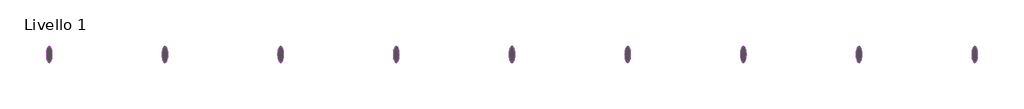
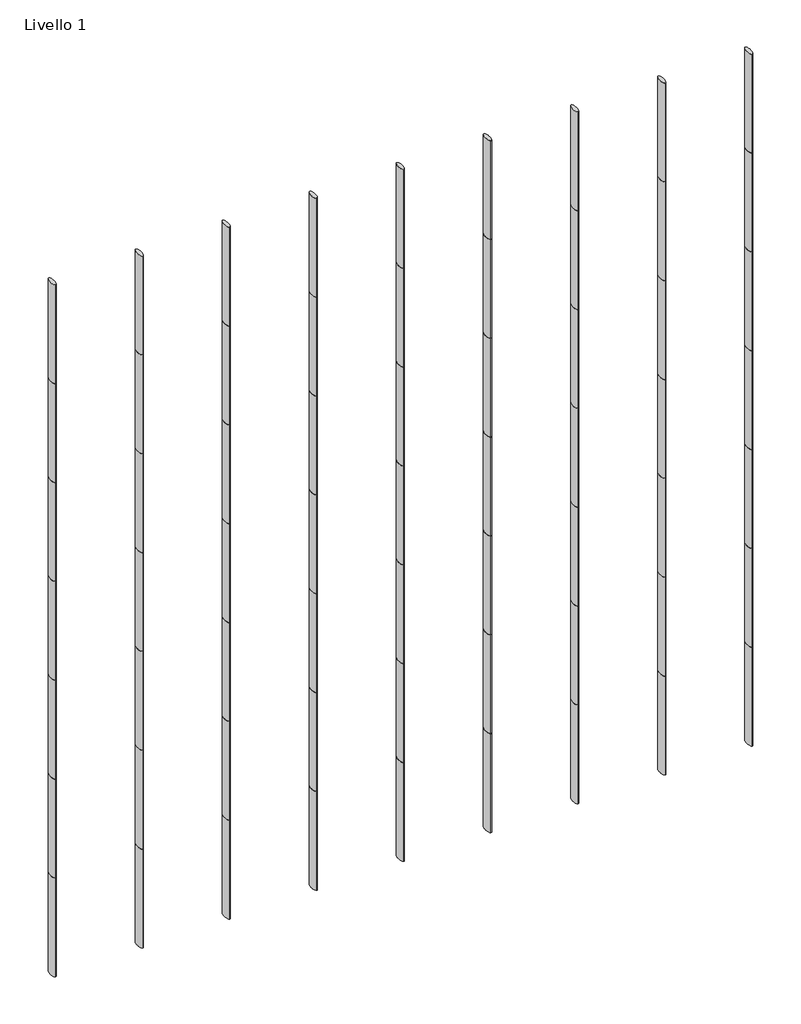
# One storey, incomplete: 63 members.
"""IFC4 building model written with IfcOpenShell, lengths in millimetres."""

import ifcopenshell
import ifcopenshell.guid

model = None  # the IFC model being written
_history = None  # IfcOwnerHistory: only IFC2X3 demands one
_inside = {}  # id of a spatial element -> (the spatial element, [elements in it])
_under = {}  # id of a project, library or spatial element -> (it, [spatial elements below it])
_declared = {}  # id of a project -> (the project, [libraries it declares])
_typed = {}  # id of a type object -> (the type object, [elements of that type])
_made_of = {}  # id of a material, layer set ... -> (it, [elements and type objects made of it])


def new_model(schema):
    """Start an empty IFC model of exactly this schema.

    Asked for "IFC4X3", IfcOpenShell would pick the latest addendum, in which some entities
    have other attributes; the version numbers below select the first issue.
    IFC2X3 requires an IfcOwnerHistory on every rooted entity: one is made here for all.
    """
    global model, _history
    if schema == "IFC4X3":
        model = ifcopenshell.file(schema_version=(4, 3, 0, 0))
    else:
        model = ifcopenshell.file(schema=schema)
    _inside.clear()
    _under.clear()
    _declared.clear()
    _typed.clear()
    _made_of.clear()
    _history = None
    if model.schema == "IFC2X3":
        org = make("IfcOrganization", Name="unknown")
        user = make(
            "IfcPersonAndOrganization",
            ThePerson=make("IfcPerson", FamilyName="unknown"),
            TheOrganization=org,
        )
        app = make(
            "IfcApplication",
            ApplicationDeveloper=org,
            Version="unknown",
            ApplicationFullName="unknown",
            ApplicationIdentifier="unknown",
        )
        _history = make(
            "IfcOwnerHistory",
            OwningUser=user,
            OwningApplication=app,
            ChangeAction="ADDED",
            CreationDate=0,
        )
    return model


def make(cls, **values):
    """One entity of the class cls with the attributes given. An attribute that is None is left unset."""
    return model.create_entity(
        cls, **{name: value for name, value in values.items() if value is not None}
    )


def rooted(cls, **values):
    """An entity with a GlobalId (a new one), such as an element, a storey or a relation."""
    return make(cls, GlobalId=ifcopenshell.guid.new(), OwnerHistory=_history, **values)


def si_unit(unit_type, name, prefix=None):
    """IfcSIUnit, for example si_unit("LENGTHUNIT", "METRE", prefix="MILLI")."""
    return make("IfcSIUnit", UnitType=unit_type, Prefix=prefix, Name=name)


def assignment(units):
    """IfcUnitAssignment: the units of a project."""
    return None if units is None else make("IfcUnitAssignment", Units=units)


def point(xyz):
    """IfcCartesianPoint."""
    return None if xyz is None else make("IfcCartesianPoint", Coordinates=xyz)


def direction(xyz):
    """IfcDirection."""
    return None if xyz is None else make("IfcDirection", DirectionRatios=xyz)


def frame(location, z_axis=None, x_axis=None):
    """IfcAxis2Placement3D, a coordinate frame: its origin and axes. An axis left out is left unset."""
    return make(
        "IfcAxis2Placement3D",
        Location=point(location),
        Axis=direction(z_axis),
        RefDirection=direction(x_axis),
    )


def origin():
    """The frame at (0, 0, 0) with its axes left unset."""
    return frame((0.0, 0.0, 0.0))


def place(relative_to, where):
    """IfcLocalPlacement: puts the frame where relative to a parent placement (None: the world)."""
    return make(
        "IfcLocalPlacement", PlacementRelTo=relative_to, RelativePlacement=where
    )


def context(
    kind, dimensions, precision=None, world=None, true_north=None, identifier=None
):
    """IfcGeometricRepresentationContext, for example the 3D "Model" context."""
    return make(
        "IfcGeometricRepresentationContext",
        ContextIdentifier=identifier,
        ContextType=kind,
        CoordinateSpaceDimension=dimensions,
        Precision=precision,
        WorldCoordinateSystem=world,
        TrueNorth=true_north,
    )


def project(units=None, contexts=None):
    """IfcProject with its units and contexts."""
    return rooted(
        "IfcProject",
        Name="project",
        RepresentationContexts=contexts,
        UnitsInContext=assignment(units),
    )


def spatial(cls, under=None, at=None, **own):
    """A site, building, storey or space (cls), placed at a placement, below another one or the project."""
    s = rooted(cls, ObjectPlacement=at, **own)
    if under is not None:
        _under.setdefault(under.id(), (under, []))[1].append(s)
    return s


def ellipse_curve(where, semi_axis1, semi_axis2):
    """IfcEllipse in the frame where."""
    return make(
        "IfcEllipse", Position=where, SemiAxis1=semi_axis1, SemiAxis2=semi_axis2
    )


def trimmed(basis, trim1, trim2, sense, master):
    """IfcTrimmedCurve: the piece of a basis curve between two trims."""
    return make(
        "IfcTrimmedCurve",
        BasisCurve=basis,
        Trim1=trim1,
        Trim2=trim2,
        SenseAgreement=sense,
        MasterRepresentation=master,
    )


def shape(context_of_items, identifier, shape_type, items):
    """IfcShapeRepresentation: the items that make up one representation, for example the "Body"."""
    return make(
        "IfcShapeRepresentation",
        ContextOfItems=context_of_items,
        RepresentationIdentifier=identifier,
        RepresentationType=shape_type,
        Items=items,
    )


def source(mapping_origin, context_of_items, identifier, shape_type, items):
    """IfcRepresentationMap: a shape defined once, which mapped items show again and again."""
    return make(
        "IfcRepresentationMap",
        MappingOrigin=mapping_origin,
        MappedRepresentation=shape(context_of_items, identifier, shape_type, items),
    )


def transform(
    local_origin,
    x_axis=None,
    y_axis=None,
    z_axis=None,
    scale=None,
    scale2=None,
    scale3=None,
    uniform=True,
):
    """IfcCartesianTransformationOperator3D, or its non-uniform kind. x_axis, y_axis, z_axis: its Axis1, 2, 3."""
    if uniform:
        return make(
            "IfcCartesianTransformationOperator3D",
            Axis1=direction(x_axis),
            Axis2=direction(y_axis),
            LocalOrigin=point(local_origin),
            Scale=scale,
            Axis3=direction(z_axis),
        )
    return make(
        "IfcCartesianTransformationOperator3DnonUniform",
        Axis1=direction(x_axis),
        Axis2=direction(y_axis),
        LocalOrigin=point(local_origin),
        Scale=scale,
        Axis3=direction(z_axis),
        Scale2=scale2,
        Scale3=scale3,
    )


def mapped(mapping_source, mapping_target):
    """IfcMappedItem: shows the shape of a source again, moved by a transform."""
    return make(
        "IfcMappedItem", MappingSource=mapping_source, MappingTarget=mapping_target
    )


def made_of(thing, what):
    """Note that an element or type object is made of a material, layer set ...; save() writes the relation."""
    if what is not None:
        _made_of.setdefault(what.id(), (what, []))[1].append(thing)
    return thing


def element(
    cls,
    number,
    at=None,
    inside=None,
    cuts=None,
    type_object=None,
    material=None,
    context=None,
    identifier="Body",
    shape_type=None,
    held_by="IfcProductDefinitionShape",
    body=None,
    shapes=None,
    **own,
):
    """One element of the class cls, such as IfcWall. Its Tag is "e" and its number.

    at: its placement. inside: the storey or other place that contains it. cuts: it is an
    opening in that element (IfcRelVoidsElement). A single representation is given by context,
    identifier, shape_type and body (its items); several are given by shapes. held_by: the class
    of the entity that holds the representations. save() writes the other relations.
    """
    e = rooted(cls, Tag="e%d" % number, ObjectPlacement=at, **own)
    if body is not None:
        shapes = [shape(context, identifier, shape_type, body)]
    if shapes is not None:
        e.Representation = make(held_by, Representations=shapes)
    if inside is not None:
        _inside.setdefault(inside.id(), (inside, []))[1].append(e)
    if cuts is not None:
        rooted(
            "IfcRelVoidsElement", RelatingBuildingElement=cuts, RelatedOpeningElement=e
        )
    if type_object is not None:
        _typed.setdefault(type_object.id(), (type_object, []))[1].append(e)
    return made_of(e, material)


def aggregate(whole, parts):
    """IfcRelAggregates: a whole, such as a stair, and the parts it consists of."""
    return rooted("IfcRelAggregates", RelatingObject=whole, RelatedObjects=parts)


def save(model, path):
    """Write the relations noted so far, then the file.

    IfcRelAggregates (storeys below a building ...), IfcRelContainedInSpatialStructure (elements
    in a storey), IfcRelDefinesByType, IfcRelAssociatesMaterial and IfcRelDeclares: one each for
    every whole, place, type object, material and project.
    """
    for whole, parts in _under.values():
        aggregate(whole, parts)
    for where, things in _inside.values():
        rooted(
            "IfcRelContainedInSpatialStructure",
            RelatedElements=things,
            RelatingStructure=where,
        )
    for kind, things in _typed.values():
        rooted("IfcRelDefinesByType", RelatedObjects=things, RelatingType=kind)
    for what, things in _made_of.values():
        rooted("IfcRelAssociatesMaterial", RelatedObjects=things, RelatingMaterial=what)
    for by, libraries in _declared.values():
        rooted("IfcRelDeclares", RelatingContext=by, RelatedDefinitions=libraries)
    model.write(path)


def plane_surface(at):
    """IfcPlane: the flat surface through the origin of the frame at, square to its z axis."""
    return make("IfcPlane", Position=at)


def extruded_surface(curve, direction_of_extrusion, depth):
    """IfcSurfaceOfLinearExtrusion: the curve pushed along a direction by depth."""
    return make(
        "IfcSurfaceOfLinearExtrusion",
        SweptCurve=make("IfcArbitraryOpenProfileDef", ProfileType="CURVE", Curve=curve),
        ExtrudedDirection=direction(direction_of_extrusion),
        Depth=depth,
    )


def advanced_brep(points, edges, surfaces, faces):
    """IfcAdvancedBrep: a solid bounded by faces that lie on surfaces and meet in shared edges.

    An edge is (start, end): straight between two places in points (the first is 0);
    or (start, end, curve); or (start, end, curve, False) where it runs against its curve.
    A face is (place in surfaces, loops), or (place, loops, False) where it looks against
    its surface's normal. A loop lists edges by number (the first is 1), with a minus sign
    where the edge is run from its end to its start. The first loop is the outer one.
    """
    corners = [point(p) for p in points]
    vertices = [make("IfcVertexPoint", VertexGeometry=c) for c in corners]
    made = []
    for start, end, *more in edges:
        made.append(
            make(
                "IfcEdgeCurve",
                EdgeStart=vertices[start],
                EdgeEnd=vertices[end],
                EdgeGeometry=more[0] if more else make("IfcPolyline", Points=[corners[start], corners[end]]),
                SameSense=more[1] if len(more) > 1 else True,
            )
        )
    hull = []
    for where, loops, *sense in faces:
        bounds = []
        for j, loop in enumerate(loops):
            ring = [make("IfcOrientedEdge", EdgeElement=made[abs(k) - 1], Orientation=k > 0) for k in loop]
            bounds.append(
                make(
                    "IfcFaceOuterBound" if j == 0 else "IfcFaceBound",
                    Bound=make("IfcEdgeLoop", EdgeList=ring),
                    Orientation=True,
                )
            )
        hull.append(make("IfcAdvancedFace", Bounds=bounds, FaceSurface=surfaces[where], SameSense=sense[0] if sense else True))
    return make("IfcAdvancedBrep", Outer=make("IfcClosedShell", CfsFaces=hull))


def montante_circolare_cc02080f(model_context):
    return source(origin(), model_context, "Body", "AdvancedBrep", [
        advanced_brep(
        [(0.0, 264.0, 0.0), (0.0, 55.0, 0.0), (0.0, 264.0, -1800.0), (0.0, 55.0, -1800.0)],
        [
            (0, 1, ellipse_curve(frame((0.0, 159.5, 0.0), z_axis=(0.0, 0.0, 1.0), x_axis=(0.0, -1.0, 0.0)), 104.5, 35.0)),
            (1, 0, ellipse_curve(frame((0.0, 159.5, 0.0), z_axis=(0.0, 0.0, 1.0), x_axis=(0.0, -1.0, 0.0)), 104.5, 35.0)),
            (2, 3, ellipse_curve(frame((0.0, 159.5, -1800.0), z_axis=(0.0, 0.0, -1.0), x_axis=(0.0, -1.0, 0.0)), 104.5, 35.0)),
            (3, 2, ellipse_curve(frame((0.0, 159.5, -1800.0), z_axis=(0.0, 0.0, -1.0), x_axis=(0.0, -1.0, 0.0)), 104.5, 35.0)),
            (0, 2),
            (3, 1),
        ],
        [
            plane_surface(frame((0.0, -264.0, 0.0), z_axis=(0.0, 0.0, 1.0), x_axis=(-1.0, 0.0, 0.0))),
            plane_surface(frame((0.0, -264.0, -1800.0), z_axis=(0.0, 0.0, -1.0), x_axis=(-1.0, 0.0, 0.0))),
            extruded_surface(trimmed(ellipse_curve(frame((0.0, 159.5, -1800.0), z_axis=(0.0, 0.0, 1.0), x_axis=(0.0, -1.0, 0.0)), 104.5, 35.0), [point((0.0, 264.0, -1800.0))], [point((0.0, 55.0, -1800.0))], True, "CARTESIAN"), (0.0, 0.0, 1800.0), 1800.0),
            extruded_surface(trimmed(ellipse_curve(frame((0.0, 159.5, -1800.0), z_axis=(0.0, 0.0, 1.0), x_axis=(0.0, -1.0, 0.0)), 104.5, 35.0), [point((0.0, 55.0, -1800.0))], [point((0.0, 264.0, -1800.0))], True, "CARTESIAN"), (0.0, 0.0, 1800.0), 1800.0),
        ],
        [
            (0, [[1, 2]]),
            (1, [[3, 4]]),
            (2, [[-1, 5, -4, 6]]),
            (3, [[-2, -6, -3, -5]]),
        ],
    ),
    ])


model = new_model("IFC4")

# Units and contexts
model_context = context("Model", 3, world=origin())
ifc_project = project(units=[si_unit("LENGTHUNIT", "METRE", prefix="MILLI")], contexts=[model_context])

# Site, building, storey
site = spatial("IfcSite", under=ifc_project)
building = spatial("IfcBuilding", under=site)
storey = spatial("IfcBuildingStorey", under=building, Name="Livello 1", Elevation=0.0)

# Members
placement = place(None, origin())
montante_circolare_shape = montante_circolare_cc02080f(model_context)
element("IfcMember", 1, ObjectType="Montante circolare : Mullion FARAONE_F01/A", at=placement, inside=storey, context=model_context, shape_type="MappedRepresentation", body=[
    mapped(montante_circolare_shape, transform((1229.4303551, 2003.2295258, 0.0), x_axis=(-1.0, 0.0, 0.0), y_axis=(0.0, 1.0, 0.0), z_axis=(0.0, 0.0, -1.0))),
])
element("IfcMember", 2, ObjectType="Montante circolare : Mullion FARAONE_F01/A", at=placement, inside=storey, context=model_context, shape_type="MappedRepresentation", body=[
    mapped(montante_circolare_shape, transform((-270.5696449, 2003.2295258, 0.0), x_axis=(-1.0, 0.0, 0.0), y_axis=(0.0, 1.0, 0.0), z_axis=(0.0, 0.0, -1.0))),
])
element("IfcMember", 3, ObjectType="Montante circolare : Mullion FARAONE_F01/A", at=placement, inside=storey, context=model_context, shape_type="MappedRepresentation", body=[
    mapped(montante_circolare_shape, transform((-1770.5696449, 2003.2295258, 0.0), x_axis=(-1.0, 0.0, 0.0), y_axis=(0.0, 1.0, 0.0), z_axis=(0.0, 0.0, -1.0))),
])
element("IfcMember", 4, ObjectType="Montante circolare : Mullion FARAONE_F01/A", at=placement, inside=storey, context=model_context, shape_type="MappedRepresentation", body=[
    mapped(montante_circolare_shape, transform((-3270.5696449, 2003.2295258, 0.0), x_axis=(-1.0, 0.0, 0.0), y_axis=(0.0, 1.0, 0.0), z_axis=(0.0, 0.0, -1.0))),
])
element("IfcMember", 5, ObjectType="Montante circolare : Mullion FARAONE_F01/A", at=placement, inside=storey, context=model_context, shape_type="MappedRepresentation", body=[
    mapped(montante_circolare_shape, transform((-4770.5696449, 2003.2295258, 0.0), x_axis=(-1.0, 0.0, 0.0), y_axis=(0.0, 1.0, 0.0), z_axis=(0.0, 0.0, -1.0))),
])
element("IfcMember", 6, ObjectType="Montante circolare : Mullion FARAONE_F01/A", at=placement, inside=storey, context=model_context, shape_type="MappedRepresentation", body=[
    mapped(montante_circolare_shape, transform((-6270.5696449, 2003.2295258, 0.0), x_axis=(-1.0, 0.0, 0.0), y_axis=(0.0, 1.0, 0.0), z_axis=(0.0, 0.0, -1.0))),
])
element("IfcMember", 7, ObjectType="Montante circolare : Mullion FARAONE_F01/A", at=placement, inside=storey, context=model_context, shape_type="MappedRepresentation", body=[
    mapped(montante_circolare_shape, transform((-7770.5696449, 2003.2295258, 0.0), x_axis=(-1.0, 0.0, 0.0), y_axis=(0.0, 1.0, 0.0), z_axis=(0.0, 0.0, -1.0))),
])
element("IfcMember", 8, ObjectType="Montante circolare : Mullion FARAONE_F01/A", at=placement, inside=storey, context=model_context, shape_type="MappedRepresentation", body=[
    mapped(montante_circolare_shape, transform((-9270.5696449, 2003.2295258, 0.0), x_axis=(-1.0, 0.0, 0.0), y_axis=(0.0, 1.0, 0.0), z_axis=(0.0, 0.0, -1.0))),
])
element("IfcMember", 9, ObjectType="Montante circolare : Mullion FARAONE_F01/A", at=placement, inside=storey, context=model_context, shape_type="MappedRepresentation", body=[
    mapped(montante_circolare_shape, transform((-10770.5696449, 2003.2295258, 0.0), x_axis=(-1.0, 0.0, 0.0), y_axis=(0.0, 1.0, 0.0), z_axis=(0.0, 0.0, -1.0))),
])
element("IfcMember", 10, ObjectType="Montante circolare : Mullion FARAONE_F01/A", at=placement, inside=storey, context=model_context, shape_type="MappedRepresentation", body=[
    mapped(montante_circolare_shape, transform((1229.4303551, 2003.2295258, 1800.0), x_axis=(-1.0, 0.0, 0.0), y_axis=(0.0, 1.0, 0.0), z_axis=(0.0, 0.0, -1.0))),
])
element("IfcMember", 11, ObjectType="Montante circolare : Mullion FARAONE_F01/A", at=placement, inside=storey, context=model_context, shape_type="MappedRepresentation", body=[
    mapped(montante_circolare_shape, transform((-270.5696449, 2003.2295258, 1800.0), x_axis=(-1.0, 0.0, 0.0), y_axis=(0.0, 1.0, 0.0), z_axis=(0.0, 0.0, -1.0))),
])
element("IfcMember", 12, ObjectType="Montante circolare : Mullion FARAONE_F01/A", at=placement, inside=storey, context=model_context, shape_type="MappedRepresentation", body=[
    mapped(montante_circolare_shape, transform((-1770.5696449, 2003.2295258, 1800.0), x_axis=(-1.0, 0.0, 0.0), y_axis=(0.0, 1.0, 0.0), z_axis=(0.0, 0.0, -1.0))),
])
element("IfcMember", 13, ObjectType="Montante circolare : Mullion FARAONE_F01/A", at=placement, inside=storey, context=model_context, shape_type="MappedRepresentation", body=[
    mapped(montante_circolare_shape, transform((-3270.5696449, 2003.2295258, 1800.0), x_axis=(-1.0, 0.0, 0.0), y_axis=(0.0, 1.0, 0.0), z_axis=(0.0, 0.0, -1.0))),
])
element("IfcMember", 14, ObjectType="Montante circolare : Mullion FARAONE_F01/A", at=placement, inside=storey, context=model_context, shape_type="MappedRepresentation", body=[
    mapped(montante_circolare_shape, transform((-4770.5696449, 2003.2295258, 1800.0), x_axis=(-1.0, 0.0, 0.0), y_axis=(0.0, 1.0, 0.0), z_axis=(0.0, 0.0, -1.0))),
])
element("IfcMember", 15, ObjectType="Montante circolare : Mullion FARAONE_F01/A", at=placement, inside=storey, context=model_context, shape_type="MappedRepresentation", body=[
    mapped(montante_circolare_shape, transform((1229.4303551, 2003.2295258, 3600.0), x_axis=(-1.0, 0.0, 0.0), y_axis=(0.0, 1.0, 0.0), z_axis=(0.0, 0.0, -1.0))),
])
element("IfcMember", 16, ObjectType="Montante circolare : Mullion FARAONE_F01/A", at=placement, inside=storey, context=model_context, shape_type="MappedRepresentation", body=[
    mapped(montante_circolare_shape, transform((-270.5696449, 2003.2295258, 3600.0), x_axis=(-1.0, 0.0, 0.0), y_axis=(0.0, 1.0, 0.0), z_axis=(0.0, 0.0, -1.0))),
])
element("IfcMember", 17, ObjectType="Montante circolare : Mullion FARAONE_F01/A", at=placement, inside=storey, context=model_context, shape_type="MappedRepresentation", body=[
    mapped(montante_circolare_shape, transform((-1770.5696449, 2003.2295258, 3600.0), x_axis=(-1.0, 0.0, 0.0), y_axis=(0.0, 1.0, 0.0), z_axis=(0.0, 0.0, -1.0))),
])
element("IfcMember", 18, ObjectType="Montante circolare : Mullion FARAONE_F01/A", at=placement, inside=storey, context=model_context, shape_type="MappedRepresentation", body=[
    mapped(montante_circolare_shape, transform((-3270.5696449, 2003.2295258, 3600.0), x_axis=(-1.0, 0.0, 0.0), y_axis=(0.0, 1.0, 0.0), z_axis=(0.0, 0.0, -1.0))),
])
element("IfcMember", 19, ObjectType="Montante circolare : Mullion FARAONE_F01/A", at=placement, inside=storey, context=model_context, shape_type="MappedRepresentation", body=[
    mapped(montante_circolare_shape, transform((-4770.5696449, 2003.2295258, 3600.0), x_axis=(-1.0, 0.0, 0.0), y_axis=(0.0, 1.0, 0.0), z_axis=(0.0, 0.0, -1.0))),
])
element("IfcMember", 20, ObjectType="Montante circolare : Mullion FARAONE_F01/A", at=placement, inside=storey, context=model_context, shape_type="MappedRepresentation", body=[
    mapped(montante_circolare_shape, transform((1229.4303551, 2003.2295258, 5400.0), x_axis=(-1.0, 0.0, 0.0), y_axis=(0.0, 1.0, 0.0), z_axis=(0.0, 0.0, -1.0))),
])
element("IfcMember", 21, ObjectType="Montante circolare : Mullion FARAONE_F01/A", at=placement, inside=storey, context=model_context, shape_type="MappedRepresentation", body=[
    mapped(montante_circolare_shape, transform((-270.5696449, 2003.2295258, 5400.0), x_axis=(-1.0, 0.0, 0.0), y_axis=(0.0, 1.0, 0.0), z_axis=(0.0, 0.0, -1.0))),
])
element("IfcMember", 22, ObjectType="Montante circolare : Mullion FARAONE_F01/A", at=placement, inside=storey, context=model_context, shape_type="MappedRepresentation", body=[
    mapped(montante_circolare_shape, transform((-1770.5696449, 2003.2295258, 5400.0), x_axis=(-1.0, 0.0, 0.0), y_axis=(0.0, 1.0, 0.0), z_axis=(0.0, 0.0, -1.0))),
])
element("IfcMember", 23, ObjectType="Montante circolare : Mullion FARAONE_F01/A", at=placement, inside=storey, context=model_context, shape_type="MappedRepresentation", body=[
    mapped(montante_circolare_shape, transform((-3270.5696449, 2003.2295258, 5400.0), x_axis=(-1.0, 0.0, 0.0), y_axis=(0.0, 1.0, 0.0), z_axis=(0.0, 0.0, -1.0))),
])
element("IfcMember", 24, ObjectType="Montante circolare : Mullion FARAONE_F01/A", at=placement, inside=storey, context=model_context, shape_type="MappedRepresentation", body=[
    mapped(montante_circolare_shape, transform((-4770.5696449, 2003.2295258, 5400.0), x_axis=(-1.0, 0.0, 0.0), y_axis=(0.0, 1.0, 0.0), z_axis=(0.0, 0.0, -1.0))),
])
element("IfcMember", 25, ObjectType="Montante circolare : Mullion FARAONE_F01/A", at=placement, inside=storey, context=model_context, shape_type="MappedRepresentation", body=[
    mapped(montante_circolare_shape, transform((1229.4303551, 2003.2295258, 7200.0), x_axis=(-1.0, 0.0, 0.0), y_axis=(0.0, 1.0, 0.0), z_axis=(0.0, 0.0, -1.0))),
])
element("IfcMember", 26, ObjectType="Montante circolare : Mullion FARAONE_F01/A", at=placement, inside=storey, context=model_context, shape_type="MappedRepresentation", body=[
    mapped(montante_circolare_shape, transform((-270.5696449, 2003.2295258, 7200.0), x_axis=(-1.0, 0.0, 0.0), y_axis=(0.0, 1.0, 0.0), z_axis=(0.0, 0.0, -1.0))),
])
element("IfcMember", 27, ObjectType="Montante circolare : Mullion FARAONE_F01/A", at=placement, inside=storey, context=model_context, shape_type="MappedRepresentation", body=[
    mapped(montante_circolare_shape, transform((-1770.5696449, 2003.2295258, 7200.0), x_axis=(-1.0, 0.0, 0.0), y_axis=(0.0, 1.0, 0.0), z_axis=(0.0, 0.0, -1.0))),
])
element("IfcMember", 28, ObjectType="Montante circolare : Mullion FARAONE_F01/A", at=placement, inside=storey, context=model_context, shape_type="MappedRepresentation", body=[
    mapped(montante_circolare_shape, transform((-3270.5696449, 2003.2295258, 7200.0), x_axis=(-1.0, 0.0, 0.0), y_axis=(0.0, 1.0, 0.0), z_axis=(0.0, 0.0, -1.0))),
])
element("IfcMember", 29, ObjectType="Montante circolare : Mullion FARAONE_F01/A", at=placement, inside=storey, context=model_context, shape_type="MappedRepresentation", body=[
    mapped(montante_circolare_shape, transform((-4770.5696449, 2003.2295258, 7200.0), x_axis=(-1.0, 0.0, 0.0), y_axis=(0.0, 1.0, 0.0), z_axis=(0.0, 0.0, -1.0))),
])
element("IfcMember", 30, ObjectType="Montante circolare : Mullion FARAONE_F01/A", at=placement, inside=storey, context=model_context, shape_type="MappedRepresentation", body=[
    mapped(montante_circolare_shape, transform((1229.4303551, 2003.2295258, 9000.0), x_axis=(-1.0, 0.0, 0.0), y_axis=(0.0, 1.0, 0.0), z_axis=(0.0, 0.0, -1.0))),
])
element("IfcMember", 31, ObjectType="Montante circolare : Mullion FARAONE_F01/A", at=placement, inside=storey, context=model_context, shape_type="MappedRepresentation", body=[
    mapped(montante_circolare_shape, transform((-270.5696449, 2003.2295258, 9000.0), x_axis=(-1.0, 0.0, 0.0), y_axis=(0.0, 1.0, 0.0), z_axis=(0.0, 0.0, -1.0))),
])
element("IfcMember", 32, ObjectType="Montante circolare : Mullion FARAONE_F01/A", at=placement, inside=storey, context=model_context, shape_type="MappedRepresentation", body=[
    mapped(montante_circolare_shape, transform((-1770.5696449, 2003.2295258, 9000.0), x_axis=(-1.0, 0.0, 0.0), y_axis=(0.0, 1.0, 0.0), z_axis=(0.0, 0.0, -1.0))),
])
element("IfcMember", 33, ObjectType="Montante circolare : Mullion FARAONE_F01/A", at=placement, inside=storey, context=model_context, shape_type="MappedRepresentation", body=[
    mapped(montante_circolare_shape, transform((-3270.5696449, 2003.2295258, 9000.0), x_axis=(-1.0, 0.0, 0.0), y_axis=(0.0, 1.0, 0.0), z_axis=(0.0, 0.0, -1.0))),
])
element("IfcMember", 34, ObjectType="Montante circolare : Mullion FARAONE_F01/A", at=placement, inside=storey, context=model_context, shape_type="MappedRepresentation", body=[
    mapped(montante_circolare_shape, transform((-4770.5696449, 2003.2295258, 9000.0), x_axis=(-1.0, 0.0, 0.0), y_axis=(0.0, 1.0, 0.0), z_axis=(0.0, 0.0, -1.0))),
])
element("IfcMember", 35, ObjectType="Montante circolare : Mullion FARAONE_F01/A", at=placement, inside=storey, context=model_context, shape_type="MappedRepresentation", body=[
    mapped(montante_circolare_shape, transform((-6270.5696449, 2003.2295258, 1800.0), x_axis=(-1.0, 0.0, 0.0), y_axis=(0.0, 1.0, 0.0), z_axis=(0.0, 0.0, -1.0))),
])
element("IfcMember", 36, ObjectType="Montante circolare : Mullion FARAONE_F01/A", at=placement, inside=storey, context=model_context, shape_type="MappedRepresentation", body=[
    mapped(montante_circolare_shape, transform((-6270.5696449, 2003.2295258, 3600.0), x_axis=(-1.0, 0.0, 0.0), y_axis=(0.0, 1.0, 0.0), z_axis=(0.0, 0.0, -1.0))),
])
element("IfcMember", 37, ObjectType="Montante circolare : Mullion FARAONE_F01/A", at=placement, inside=storey, context=model_context, shape_type="MappedRepresentation", body=[
    mapped(montante_circolare_shape, transform((-6270.5696449, 2003.2295258, 5400.0), x_axis=(-1.0, 0.0, 0.0), y_axis=(0.0, 1.0, 0.0), z_axis=(0.0, 0.0, -1.0))),
])
element("IfcMember", 38, ObjectType="Montante circolare : Mullion FARAONE_F01/A", at=placement, inside=storey, context=model_context, shape_type="MappedRepresentation", body=[
    mapped(montante_circolare_shape, transform((-6270.5696449, 2003.2295258, 7200.0), x_axis=(-1.0, 0.0, 0.0), y_axis=(0.0, 1.0, 0.0), z_axis=(0.0, 0.0, -1.0))),
])
element("IfcMember", 39, ObjectType="Montante circolare : Mullion FARAONE_F01/A", at=placement, inside=storey, context=model_context, shape_type="MappedRepresentation", body=[
    mapped(montante_circolare_shape, transform((-6270.5696449, 2003.2295258, 9000.0), x_axis=(-1.0, 0.0, 0.0), y_axis=(0.0, 1.0, 0.0), z_axis=(0.0, 0.0, -1.0))),
])
element("IfcMember", 40, ObjectType="Montante circolare : Mullion FARAONE_F01/A", at=placement, inside=storey, context=model_context, shape_type="MappedRepresentation", body=[
    mapped(montante_circolare_shape, transform((-7770.5696449, 2003.2295258, 1800.0), x_axis=(-1.0, 0.0, 0.0), y_axis=(0.0, 1.0, 0.0), z_axis=(0.0, 0.0, -1.0))),
])
element("IfcMember", 41, ObjectType="Montante circolare : Mullion FARAONE_F01/A", at=placement, inside=storey, context=model_context, shape_type="MappedRepresentation", body=[
    mapped(montante_circolare_shape, transform((-9270.5696449, 2003.2295258, 1800.0), x_axis=(-1.0, 0.0, 0.0), y_axis=(0.0, 1.0, 0.0), z_axis=(0.0, 0.0, -1.0))),
])
element("IfcMember", 42, ObjectType="Montante circolare : Mullion FARAONE_F01/A", at=placement, inside=storey, context=model_context, shape_type="MappedRepresentation", body=[
    mapped(montante_circolare_shape, transform((-10770.5696449, 2003.2295258, 1800.0), x_axis=(-1.0, 0.0, 0.0), y_axis=(0.0, 1.0, 0.0), z_axis=(0.0, 0.0, -1.0))),
])
element("IfcMember", 43, ObjectType="Montante circolare : Mullion FARAONE_F01/A", at=placement, inside=storey, context=model_context, shape_type="MappedRepresentation", body=[
    mapped(montante_circolare_shape, transform((-7770.5696449, 2003.2295258, 3600.0), x_axis=(-1.0, 0.0, 0.0), y_axis=(0.0, 1.0, 0.0), z_axis=(0.0, 0.0, -1.0))),
])
element("IfcMember", 44, ObjectType="Montante circolare : Mullion FARAONE_F01/A", at=placement, inside=storey, context=model_context, shape_type="MappedRepresentation", body=[
    mapped(montante_circolare_shape, transform((-9270.5696449, 2003.2295258, 3600.0), x_axis=(-1.0, 0.0, 0.0), y_axis=(0.0, 1.0, 0.0), z_axis=(0.0, 0.0, -1.0))),
])
element("IfcMember", 45, ObjectType="Montante circolare : Mullion FARAONE_F01/A", at=placement, inside=storey, context=model_context, shape_type="MappedRepresentation", body=[
    mapped(montante_circolare_shape, transform((-10770.5696449, 2003.2295258, 3600.0), x_axis=(-1.0, 0.0, 0.0), y_axis=(0.0, 1.0, 0.0), z_axis=(0.0, 0.0, -1.0))),
])
element("IfcMember", 46, ObjectType="Montante circolare : Mullion FARAONE_F01/A", at=placement, inside=storey, context=model_context, shape_type="MappedRepresentation", body=[
    mapped(montante_circolare_shape, transform((-7770.5696449, 2003.2295258, 5400.0), x_axis=(-1.0, 0.0, 0.0), y_axis=(0.0, 1.0, 0.0), z_axis=(0.0, 0.0, -1.0))),
])
element("IfcMember", 47, ObjectType="Montante circolare : Mullion FARAONE_F01/A", at=placement, inside=storey, context=model_context, shape_type="MappedRepresentation", body=[
    mapped(montante_circolare_shape, transform((-9270.5696449, 2003.2295258, 5400.0), x_axis=(-1.0, 0.0, 0.0), y_axis=(0.0, 1.0, 0.0), z_axis=(0.0, 0.0, -1.0))),
])
element("IfcMember", 48, ObjectType="Montante circolare : Mullion FARAONE_F01/A", at=placement, inside=storey, context=model_context, shape_type="MappedRepresentation", body=[
    mapped(montante_circolare_shape, transform((-10770.5696449, 2003.2295258, 5400.0), x_axis=(-1.0, 0.0, 0.0), y_axis=(0.0, 1.0, 0.0), z_axis=(0.0, 0.0, -1.0))),
])
element("IfcMember", 49, ObjectType="Montante circolare : Mullion FARAONE_F01/A", at=placement, inside=storey, context=model_context, shape_type="MappedRepresentation", body=[
    mapped(montante_circolare_shape, transform((-7770.5696449, 2003.2295258, 7200.0), x_axis=(-1.0, 0.0, 0.0), y_axis=(0.0, 1.0, 0.0), z_axis=(0.0, 0.0, -1.0))),
])
element("IfcMember", 50, ObjectType="Montante circolare : Mullion FARAONE_F01/A", at=placement, inside=storey, context=model_context, shape_type="MappedRepresentation", body=[
    mapped(montante_circolare_shape, transform((-9270.5696449, 2003.2295258, 7200.0), x_axis=(-1.0, 0.0, 0.0), y_axis=(0.0, 1.0, 0.0), z_axis=(0.0, 0.0, -1.0))),
])
element("IfcMember", 51, ObjectType="Montante circolare : Mullion FARAONE_F01/A", at=placement, inside=storey, context=model_context, shape_type="MappedRepresentation", body=[
    mapped(montante_circolare_shape, transform((-10770.5696449, 2003.2295258, 7200.0), x_axis=(-1.0, 0.0, 0.0), y_axis=(0.0, 1.0, 0.0), z_axis=(0.0, 0.0, -1.0))),
])
element("IfcMember", 52, ObjectType="Montante circolare : Mullion FARAONE_F01/A", at=placement, inside=storey, context=model_context, shape_type="MappedRepresentation", body=[
    mapped(montante_circolare_shape, transform((-7770.5696449, 2003.2295258, 9000.0), x_axis=(-1.0, 0.0, 0.0), y_axis=(0.0, 1.0, 0.0), z_axis=(0.0, 0.0, -1.0))),
])
element("IfcMember", 53, ObjectType="Montante circolare : Mullion FARAONE_F01/A", at=placement, inside=storey, context=model_context, shape_type="MappedRepresentation", body=[
    mapped(montante_circolare_shape, transform((-9270.5696449, 2003.2295258, 9000.0), x_axis=(-1.0, 0.0, 0.0), y_axis=(0.0, 1.0, 0.0), z_axis=(0.0, 0.0, -1.0))),
])
element("IfcMember", 54, ObjectType="Montante circolare : Mullion FARAONE_F01/A", at=placement, inside=storey, context=model_context, shape_type="MappedRepresentation", body=[
    mapped(montante_circolare_shape, transform((-10770.5696449, 2003.2295258, 9000.0), x_axis=(-1.0, 0.0, 0.0), y_axis=(0.0, 1.0, 0.0), z_axis=(0.0, 0.0, -1.0))),
])
element("IfcMember", 55, ObjectType="Montante circolare : Mullion FARAONE_F01/A", at=placement, inside=storey, context=model_context, shape_type="MappedRepresentation", body=[
    mapped(montante_circolare_shape, transform((1229.4303551, 2003.2295258, 10800.0), x_axis=(-1.0, 0.0, 0.0), y_axis=(0.0, 1.0, 0.0), z_axis=(0.0, 0.0, -1.0))),
])
element("IfcMember", 56, ObjectType="Montante circolare : Mullion FARAONE_F01/A", at=placement, inside=storey, context=model_context, shape_type="MappedRepresentation", body=[
    mapped(montante_circolare_shape, transform((-270.5696449, 2003.2295258, 10800.0), x_axis=(-1.0, 0.0, 0.0), y_axis=(0.0, 1.0, 0.0), z_axis=(0.0, 0.0, -1.0))),
])
element("IfcMember", 57, ObjectType="Montante circolare : Mullion FARAONE_F01/A", at=placement, inside=storey, context=model_context, shape_type="MappedRepresentation", body=[
    mapped(montante_circolare_shape, transform((-1770.5696449, 2003.2295258, 10800.0), x_axis=(-1.0, 0.0, 0.0), y_axis=(0.0, 1.0, 0.0), z_axis=(0.0, 0.0, -1.0))),
])
element("IfcMember", 58, ObjectType="Montante circolare : Mullion FARAONE_F01/A", at=placement, inside=storey, context=model_context, shape_type="MappedRepresentation", body=[
    mapped(montante_circolare_shape, transform((-3270.5696449, 2003.2295258, 10800.0), x_axis=(-1.0, 0.0, 0.0), y_axis=(0.0, 1.0, 0.0), z_axis=(0.0, 0.0, -1.0))),
])
element("IfcMember", 59, ObjectType="Montante circolare : Mullion FARAONE_F01/A", at=placement, inside=storey, context=model_context, shape_type="MappedRepresentation", body=[
    mapped(montante_circolare_shape, transform((-4770.5696449, 2003.2295258, 10800.0), x_axis=(-1.0, 0.0, 0.0), y_axis=(0.0, 1.0, 0.0), z_axis=(0.0, 0.0, -1.0))),
])
element("IfcMember", 60, ObjectType="Montante circolare : Mullion FARAONE_F01/A", at=placement, inside=storey, context=model_context, shape_type="MappedRepresentation", body=[
    mapped(montante_circolare_shape, transform((-6270.5696449, 2003.2295258, 10800.0), x_axis=(-1.0, 0.0, 0.0), y_axis=(0.0, 1.0, 0.0), z_axis=(0.0, 0.0, -1.0))),
])
element("IfcMember", 61, ObjectType="Montante circolare : Mullion FARAONE_F01/A", at=placement, inside=storey, context=model_context, shape_type="MappedRepresentation", body=[
    mapped(montante_circolare_shape, transform((-7770.5696449, 2003.2295258, 10800.0), x_axis=(-1.0, 0.0, 0.0), y_axis=(0.0, 1.0, 0.0), z_axis=(0.0, 0.0, -1.0))),
])
element("IfcMember", 62, ObjectType="Montante circolare : Mullion FARAONE_F01/A", at=placement, inside=storey, context=model_context, shape_type="MappedRepresentation", body=[
    mapped(montante_circolare_shape, transform((-9270.5696449, 2003.2295258, 10800.0), x_axis=(-1.0, 0.0, 0.0), y_axis=(0.0, 1.0, 0.0), z_axis=(0.0, 0.0, -1.0))),
])
element("IfcMember", 63, ObjectType="Montante circolare : Mullion FARAONE_F01/A", at=placement, inside=storey, context=model_context, shape_type="MappedRepresentation", body=[
    mapped(montante_circolare_shape, transform((-10770.5696449, 2003.2295258, 10800.0), x_axis=(-1.0, 0.0, 0.0), y_axis=(0.0, 1.0, 0.0), z_axis=(0.0, 0.0, -1.0))),
])

save(model, "model.ifc")
